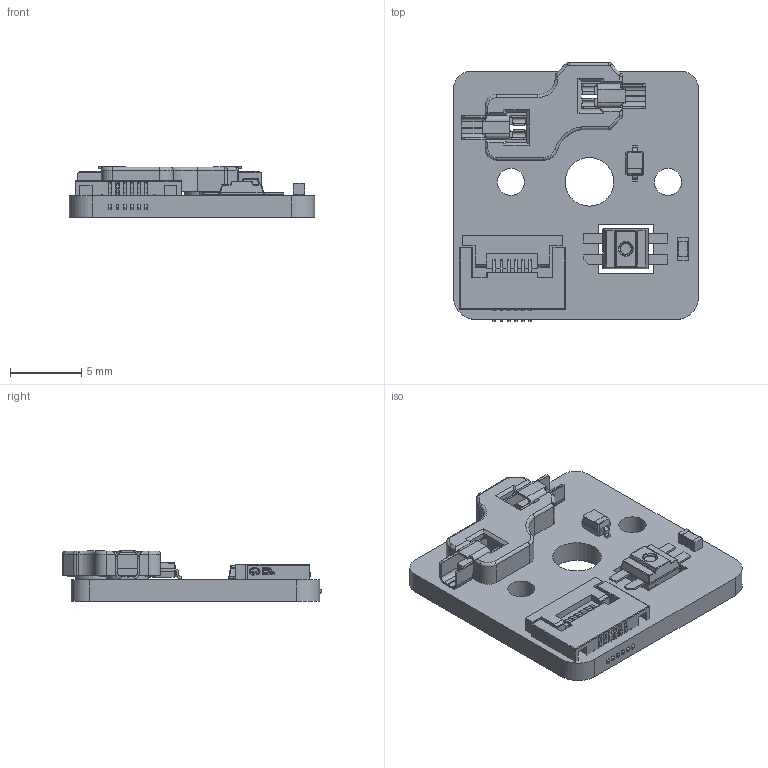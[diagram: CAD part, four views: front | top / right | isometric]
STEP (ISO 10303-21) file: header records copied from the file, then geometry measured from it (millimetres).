
FILE_DESCRIPTION(('KiCad electronic assembly'),'2;1');
FILE_NAME('FPC-assembly.step','2026-10-01T09:38:54',('Pcbnew'),('Kicad') ,'Open CASCADE STEP processor 7.9','KiCad to STEP converter','Unknown' );
FILE_SCHEMA(('AUTOMOTIVE_DESIGN { 1 0 10303 214 1 1 1 1 }'));
Length unit declared in the file: millimetre
Products named in the file (9): FPC-assembly 1; D_SOD-323; LED_SK6812MINI-E; FPC-SMD_6P-P0.50_HC-FPC-0.5-6P-FH20; HS_CPG135001S30_Choc; pin; socket; C_0603_1608Metric; AdafruitNeoKeyChocSocketBreakout_PCB
Assembly tree (9 placements, depth 3):
  FPC-assembly 1
    D_SOD-323
    LED_SK6812MINI-E
    FPC-SMD_6P-P0.50_HC-FPC-0.5-6P-FH20
    HS_CPG135001S30_Choc
      pin  x2
      socket
    C_0603_1608Metric
    AdafruitNeoKeyChocSocketBreakout_PCB
Bounding box: 17.17 x 18.12 x 3.55 mm (x, y, z)
Volume: 524.2 mm3; surface area: 1324.4 mm2
Topology: 21 solids, 21 shells, 1102 faces, 2884 edges, 1840 vertices
Faces by surface type: plane 695, cylinder 206, bspline 162, torus 14, sphere 13, cone 12
Full cylindrical faces by diameter (mm): 1.9 x2, 2.9 x2, 3 x2, 3.4 x1
Entity records: 36480 total; most frequent: CARTESIAN_POINT 7368, ORIENTED_EDGE 5296, DIRECTION 4509, EDGE_CURVE 2648, LINE 1975, VECTOR 1975, VERTEX_POINT 1694, AXIS2_PLACEMENT_3D 1267
